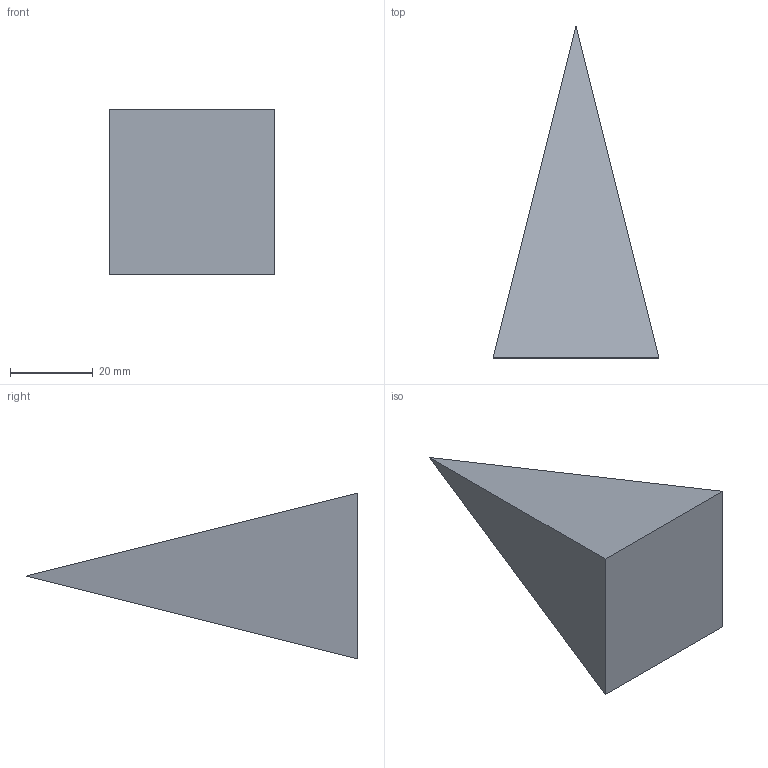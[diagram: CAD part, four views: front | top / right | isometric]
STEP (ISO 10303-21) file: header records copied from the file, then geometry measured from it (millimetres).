
FILE_DESCRIPTION(/* description */ ('','CAx-IF Rec.Pracs.---Representation and Presentation of Product Manufacturing Information (PMI)---4.0---2014-10-13'),/* implementation_level */ '2;1');
FILE_NAME(/* name */ '1.stp',/* time_stamp */ '2026-06-27T16:24:08+01:00',/* author */ ('hunte'),/* organization */ (''),/* preprocessor_version */ 'ST-DEVELOPER v20',/* originating_system */ 'Autodesk Inventor 2024',/* authorisation */ '');
FILE_SCHEMA (('AP242_MANAGED_MODEL_BASED_3D_ENGINEERING_MIM_LF { 1 0 10303 442 1 1 4 }'));
Length unit declared in the file: millimetre
Products named in the file (1): 1
Bounding box: 40 x 80 x 40 mm (x, y, z)
Volume: 42666.7 mm3; surface area: 8197 mm2
Topology: 1 solids, 1 shells, 5 faces, 8 edges, 5 vertices
Faces by surface type: plane 5
Entity records: 245 total; most frequent: DIRECTION 46, CARTESIAN_POINT 36, AXIS2_PLACEMENT_3D 19, ORIENTED_EDGE 16, LINE 8, VECTOR 8, EDGE_CURVE 8, MAPPED_ITEM 5
